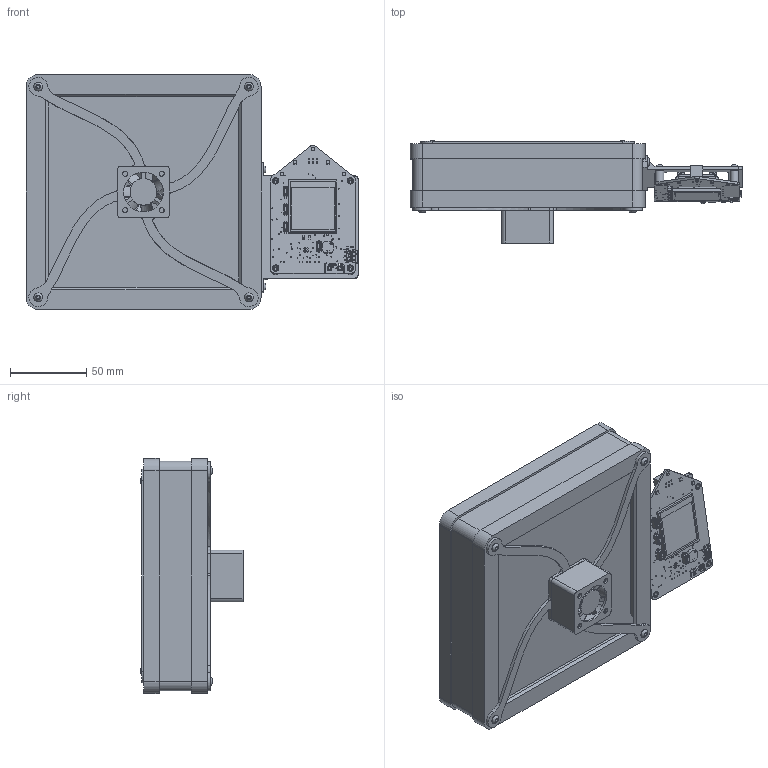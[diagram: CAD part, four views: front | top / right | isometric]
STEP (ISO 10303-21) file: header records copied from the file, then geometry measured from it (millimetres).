
FILE_DESCRIPTION(/* description */ (''),/* implementation_level */ '2;1');
FILE_NAME(/* name */ '/Users/emac5k/Dropbox/3D/Products/FunHouse Fan/CAD/FunHouse Fan v37.step',/* time_stamp */ '2021-06-07T14:09:12-04:00',/* author */ (''),/* organization */ (''),/* preprocessor_version */ 'ST-DEVELOPER v18.1',/* originating_system */ 'Autodesk Translation Framework v10.9.0.1377',/* authorisation */ '');
FILE_SCHEMA (('AUTOMOTIVE_DESIGN { 1 0 10303 214 3 1 1 }'));
Products named in the file (93): FunHouse Fan; Parts; Adafruit FunHouse; PCB Component; Board; RED; 10uF; 1Meg; AP2112K-3.3; USB C; ESP32-S2-MODULE_WROVER; STEMMA_I2C_QT; 10uF/10V+; FSM2JMTR; FSM2JMTR_1; JST PH 3; 3.6V; 7.5mm SPK; BSS138; APA102-2020; DISP_TFT_1.54IN_240X240_22P; DPS3; ALS-PT19; EG1390; BSS138_1; SPST_TACT-KMR2; 1N4148; AHT20; 2X03_SMTTHM; Addon; standoffs; M3-8mm-SMD-standoff; M3-8mm-SMD-standoff_1; M3-8mm-SMD-standoff_2; M3-8mm-SMD-standoff_3; Nut; FPC-22FLZ-SM2-TB; foam tape for display; NF-A14 v1; blades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
Assembly tree (163 placements, depth 7):
  FunHouse Fan
    Parts
      Adafruit FunHouse
        PCB Component
          Board
          RED  x2
          10uF  x9
          1Meg  x24
          AP2112K-3.3
          USB C
          ESP32-S2-MODULE_WROVER
          STEMMA_I2C_QT
          10uF/10V+
          FSM2JMTR  x3
          FSM2JMTR_1
          JST PH 3  x3
          3.6V  x3
          7.5mm SPK
          BSS138  x2
          APA102-2020  x5
          DISP_TFT_1.54IN_240X240_22P
          DPS3
          ALS-PT19
          EG1390
          BSS138_1
          SPST_TACT-KMR2
          1N4148
          AHT20
          2X03_SMTTHM
        Addon
          standoffs
            M3-8mm-SMD-standoff
              Nut
            M3-8mm-SMD-standoff_1
              Nut
            M3-8mm-SMD-standoff_2
              Nut
            M3-8mm-SMD-standoff_3
              Nut
          FPC-22FLZ-SM2-TB
          foam tape for display
      NF-A14 v1
        blades
        cage
      LD3007MS FAN
      SGP30 Rev C
        PCB Component_1
          Board_1
          SGP30
          10uF_1  x2
          MIC5225-1.8V
          10K  x2
          10K_1
          BSS138_2
          STEMMA_I2C_QT_1  x2
          GREEN
      Adafruit_EMC2101
        PCB Component_2
          Board_2
          10uF_2  x2
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Bounding box: 217.5 x 66.85 x 154 mm (x, y, z)
Volume: 410608.8 mm3; surface area: 355324.7 mm2
Topology: 240 solids, 240 shells, 7446 faces, 19280 edges, 12372 vertices
Faces by surface type: plane 5268, cylinder 1269, bspline 469, cone 318, sphere 73, torus 49
Full cylindrical faces by diameter (mm): 0.2 x1, 0.3 x2, 0.35 x1, 0.394 x1, 0.4 x19, 0.483 x17, 0.5 x127, 0.65 x2, 0.8 x2, 0.9 x6, 1 x17, 1.1 x1, 1.2 x1, 1.6 x1, 1.72 x1, 1.86 x1, 2 x2, 2.5 x12, 3 x24, 3.2 x22, 3.4 x20, 3.505 x4, 3.75 x1, 4.079 x4, 4.25 x8, 4.5 x16, 5.5 x4, 5.7 x10, 6.655 x4, 17.5 x1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
Entity records: 207695 total; most frequent: CARTESIAN_POINT 67945, ORIENTED_EDGE 28742, DIRECTION 26682, EDGE_CURVE 14371, LINE 10600, VECTOR 10600, VERTEX_POINT 9258, AXIS2_PLACEMENT_3D 8041
